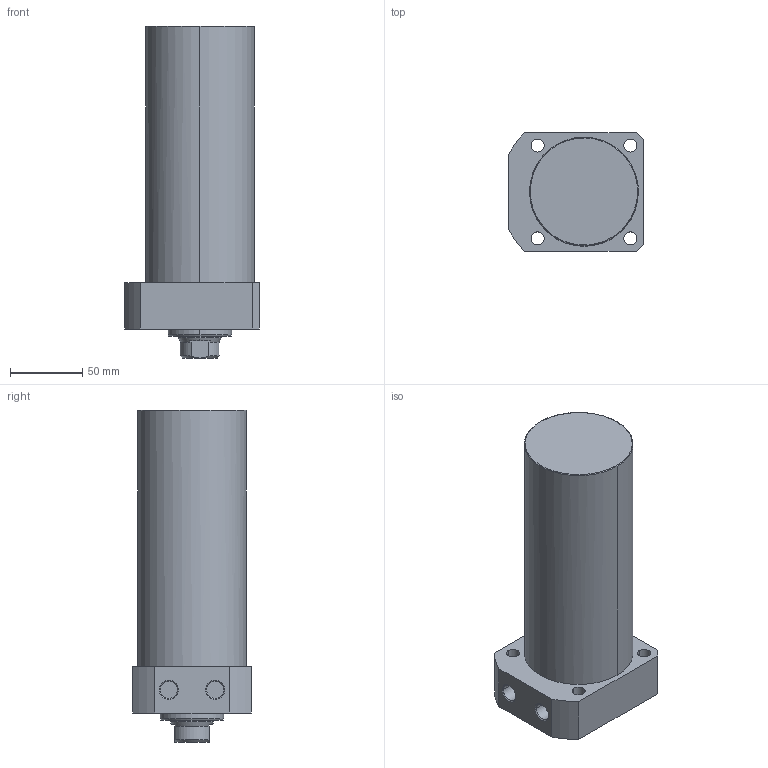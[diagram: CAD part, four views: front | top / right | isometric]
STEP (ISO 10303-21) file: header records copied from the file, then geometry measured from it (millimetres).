
FILE_DESCRIPTION((' '),'2;1');
FILE_NAME( 'TLLR-075CA-140.STEP.stp', '2025-10-24T16:35:07', (' '), ('--- Datakit www.datakit.com---'), ' Datakit CrossCadWare V2024.1 Dec 21 2023', 'Mastercam 2025', ' ');
FILE_SCHEMA(('AUTOMOTIVE_DESIGN { 1 0 10303 214 1 1 1 1 }'));
Length unit declared in the file: millimetre
Products named in the file (1): TLLR-075CA-140
Bounding box: 93 x 82 x 229 mm (x, y, z)
Volume: 1017062.3 mm3; surface area: 75365.9 mm2
Topology: 1 solids, 1 shells, 63 faces, 177 edges, 122 vertices
Faces by surface type: cylinder 28, plane 19, cone 14, torus 2
Entity records: 2168 total; most frequent: CARTESIAN_POINT 405, DIRECTION 400, ORIENTED_EDGE 350, EDGE_CURVE 175, AXIS2_PLACEMENT_3D 169, VERTEX_POINT 122, CIRCLE 105, EDGE_LOOP 79
